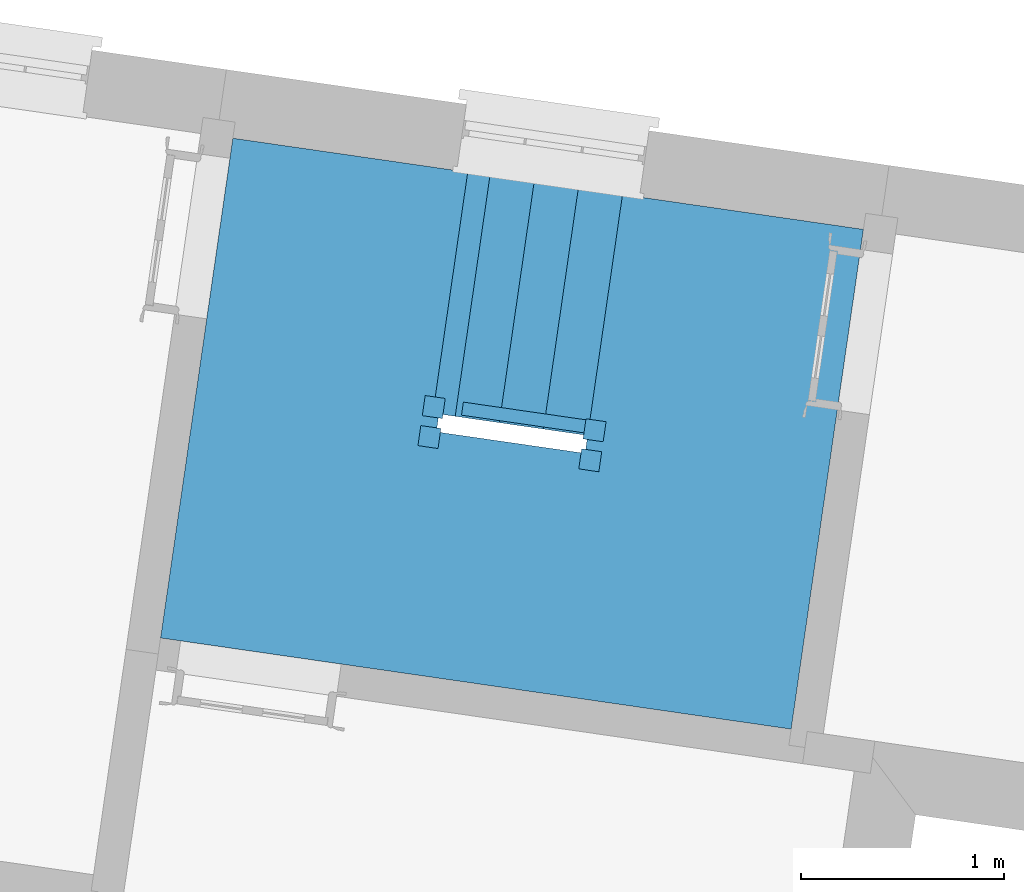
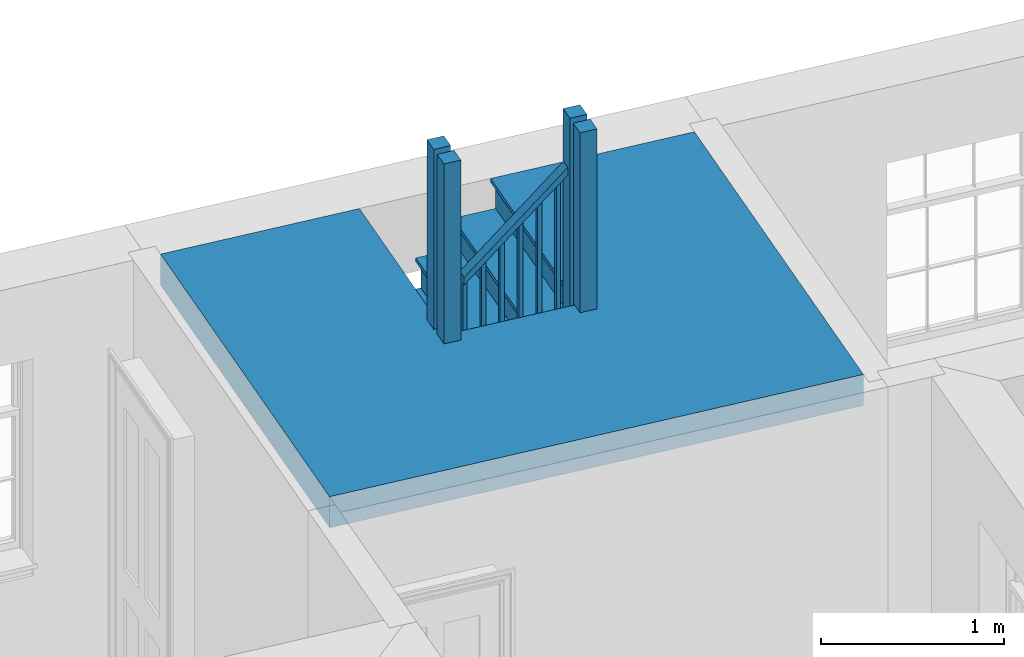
# One storey, part 4 of 4: 1 stair.
"""IFC4 building model written with IfcOpenShell, lengths in metres."""

import ifcopenshell
import ifcopenshell.guid

model = None  # the IFC model being written
_history = None  # IfcOwnerHistory: only IFC2X3 demands one
_inside = {}  # id of a spatial element -> (the spatial element, [elements in it])
_under = {}  # id of a project, library or spatial element -> (it, [spatial elements below it])
_declared = {}  # id of a project -> (the project, [libraries it declares])
_typed = {}  # id of a type object -> (the type object, [elements of that type])
_made_of = {}  # id of a material, layer set ... -> (it, [elements and type objects made of it])


def new_model(schema):
    """Start an empty IFC model of exactly this schema.

    Asked for "IFC4X3", IfcOpenShell would pick the latest addendum, in which some entities
    have other attributes; the version numbers below select the first issue.
    IFC2X3 requires an IfcOwnerHistory on every rooted entity: one is made here for all.
    """
    global model, _history
    if schema == "IFC4X3":
        model = ifcopenshell.file(schema_version=(4, 3, 0, 0))
    else:
        model = ifcopenshell.file(schema=schema)
    _inside.clear()
    _under.clear()
    _declared.clear()
    _typed.clear()
    _made_of.clear()
    _history = None
    if model.schema == "IFC2X3":
        org = make("IfcOrganization", Name="unknown")
        user = make(
            "IfcPersonAndOrganization",
            ThePerson=make("IfcPerson", FamilyName="unknown"),
            TheOrganization=org,
        )
        app = make(
            "IfcApplication",
            ApplicationDeveloper=org,
            Version="unknown",
            ApplicationFullName="unknown",
            ApplicationIdentifier="unknown",
        )
        _history = make(
            "IfcOwnerHistory",
            OwningUser=user,
            OwningApplication=app,
            ChangeAction="ADDED",
            CreationDate=0,
        )
    return model


def make(cls, **values):
    """One entity of the class cls with the attributes given. An attribute that is None is left unset."""
    return model.create_entity(
        cls, **{name: value for name, value in values.items() if value is not None}
    )


def rooted(cls, **values):
    """An entity with a GlobalId (a new one), such as an element, a storey or a relation."""
    return make(cls, GlobalId=ifcopenshell.guid.new(), OwnerHistory=_history, **values)


def si_unit(unit_type, name, prefix=None):
    """IfcSIUnit, for example si_unit("LENGTHUNIT", "METRE", prefix="MILLI")."""
    return make("IfcSIUnit", UnitType=unit_type, Prefix=prefix, Name=name)


def assignment(units):
    """IfcUnitAssignment: the units of a project."""
    return None if units is None else make("IfcUnitAssignment", Units=units)


def point(xyz):
    """IfcCartesianPoint."""
    return None if xyz is None else make("IfcCartesianPoint", Coordinates=xyz)


def direction(xyz):
    """IfcDirection."""
    return None if xyz is None else make("IfcDirection", DirectionRatios=xyz)


def frame(location, z_axis=None, x_axis=None):
    """IfcAxis2Placement3D, a coordinate frame: its origin and axes. An axis left out is left unset."""
    return make(
        "IfcAxis2Placement3D",
        Location=point(location),
        Axis=direction(z_axis),
        RefDirection=direction(x_axis),
    )


def origin():
    """The frame at (0, 0, 0) with its axes left unset."""
    return frame((0.0, 0.0, 0.0))


def origin_with_axes():
    """The frame at (0, 0, 0) with the z axis (0, 0, 1) and the x axis (1, 0, 0) written out."""
    return frame((0.0, 0.0, 0.0), z_axis=(0.0, 0.0, 1.0), x_axis=(1.0, 0.0, 0.0))


def place(relative_to, where):
    """IfcLocalPlacement: puts the frame where relative to a parent placement (None: the world)."""
    return make(
        "IfcLocalPlacement", PlacementRelTo=relative_to, RelativePlacement=where
    )


def context(
    kind, dimensions, precision=None, world=None, true_north=None, identifier=None
):
    """IfcGeometricRepresentationContext, for example the 3D "Model" context."""
    return make(
        "IfcGeometricRepresentationContext",
        ContextIdentifier=identifier,
        ContextType=kind,
        CoordinateSpaceDimension=dimensions,
        Precision=precision,
        WorldCoordinateSystem=world,
        TrueNorth=true_north,
    )


def subcontext(parent, identifier, kind, view, scale=None):
    """IfcGeometricRepresentationSubContext, for example "Body" below "Model"."""
    return make(
        "IfcGeometricRepresentationSubContext",
        ContextIdentifier=identifier,
        ContextType=kind,
        ParentContext=parent,
        TargetScale=scale,
        TargetView=view,
    )


def project(units=None, contexts=None):
    """IfcProject with its units and contexts."""
    return rooted(
        "IfcProject",
        Name="project",
        RepresentationContexts=contexts,
        UnitsInContext=assignment(units),
    )


def spatial(cls, under=None, at=None, **own):
    """A site, building, storey or space (cls), placed at a placement, below another one or the project."""
    s = rooted(cls, ObjectPlacement=at, **own)
    if under is not None:
        _under.setdefault(under.id(), (under, []))[1].append(s)
    return s


def faces_of(points, faces, orient=None, outer=None):
    """IfcFace entities. A face is a list of loops; a loop is a list of indices into points, from 0.

    orient and outer hold one flag for each loop. By default every Orientation is true, the
    first loop of a face is its IfcFaceOuterBound and the others are IfcFaceBound.
    """
    made = []
    for i, loops in enumerate(faces):
        bounds = []
        for j, loop in enumerate(loops):
            is_outer = j == 0 if outer is None else outer[i][j]
            bounds.append(
                make(
                    "IfcFaceOuterBound" if is_outer else "IfcFaceBound",
                    Bound=make("IfcPolyLoop", Polygon=[points[k] for k in loop]),
                    Orientation=True if orient is None else orient[i][j],
                )
            )
        made.append(make("IfcFace", Bounds=bounds))
    return made


def faceted_brep(points, faces, orient=None, outer=None, voids=None):
    """IfcFacetedBrep: a solid bounded by flat faces; with voids (closed shells), ...WithVoids."""
    shared = [point(p) for p in points]
    hull = make("IfcClosedShell", CfsFaces=faces_of(shared, faces, orient, outer))
    if voids is None:
        return make("IfcFacetedBrep", Outer=hull)
    return make(
        "IfcFacetedBrepWithVoids",
        Outer=hull,
        Voids=[
            make(cls, CfsFaces=faces_of(shared, fs, o, b)) for cls, fs, o, b in voids
        ],
    )


def shape(context_of_items, identifier, shape_type, items):
    """IfcShapeRepresentation: the items that make up one representation, for example the "Body"."""
    return make(
        "IfcShapeRepresentation",
        ContextOfItems=context_of_items,
        RepresentationIdentifier=identifier,
        RepresentationType=shape_type,
        Items=items,
    )


def made_of(thing, what):
    """Note that an element or type object is made of a material, layer set ...; save() writes the relation."""
    if what is not None:
        _made_of.setdefault(what.id(), (what, []))[1].append(thing)
    return thing


def element(
    cls,
    number,
    at=None,
    inside=None,
    cuts=None,
    type_object=None,
    material=None,
    context=None,
    identifier="Body",
    shape_type=None,
    held_by="IfcProductDefinitionShape",
    body=None,
    shapes=None,
    **own,
):
    """One element of the class cls, such as IfcWall. Its Tag is "e" and its number.

    at: its placement. inside: the storey or other place that contains it. cuts: it is an
    opening in that element (IfcRelVoidsElement). A single representation is given by context,
    identifier, shape_type and body (its items); several are given by shapes. held_by: the class
    of the entity that holds the representations. save() writes the other relations.
    """
    e = rooted(cls, Tag="e%d" % number, ObjectPlacement=at, **own)
    if body is not None:
        shapes = [shape(context, identifier, shape_type, body)]
    if shapes is not None:
        e.Representation = make(held_by, Representations=shapes)
    if inside is not None:
        _inside.setdefault(inside.id(), (inside, []))[1].append(e)
    if cuts is not None:
        rooted(
            "IfcRelVoidsElement", RelatingBuildingElement=cuts, RelatedOpeningElement=e
        )
    if type_object is not None:
        _typed.setdefault(type_object.id(), (type_object, []))[1].append(e)
    return made_of(e, material)


def aggregate(whole, parts):
    """IfcRelAggregates: a whole, such as a stair, and the parts it consists of."""
    return rooted("IfcRelAggregates", RelatingObject=whole, RelatedObjects=parts)


def save(model, path):
    """Write the relations noted so far, then the file.

    IfcRelAggregates (storeys below a building ...), IfcRelContainedInSpatialStructure (elements
    in a storey), IfcRelDefinesByType, IfcRelAssociatesMaterial and IfcRelDeclares: one each for
    every whole, place, type object, material and project.
    """
    for whole, parts in _under.values():
        aggregate(whole, parts)
    for where, things in _inside.values():
        rooted(
            "IfcRelContainedInSpatialStructure",
            RelatedElements=things,
            RelatingStructure=where,
        )
    for kind, things in _typed.values():
        rooted("IfcRelDefinesByType", RelatedObjects=things, RelatingType=kind)
    for what, things in _made_of.values():
        rooted("IfcRelAssociatesMaterial", RelatedObjects=things, RelatingMaterial=what)
    for by, libraries in _declared.values():
        rooted("IfcRelDeclares", RelatingContext=by, RelatedDefinitions=libraries)
    model.write(path)


model = new_model("IFC4")

# Units and contexts
model_context = context("Model", 3, world=origin_with_axes())
body_context = subcontext(model_context, "Body", "Model", "MODEL_VIEW")
ifc_project = project(units=[si_unit("PLANEANGLEUNIT", "RADIAN"), si_unit("MASSUNIT", "GRAM", prefix="KILO"), si_unit("FORCEUNIT", "NEWTON", prefix="KILO"), si_unit("LENGTHUNIT", "METRE"), si_unit("AREAUNIT", "SQUARE_METRE"), si_unit("VOLUMEUNIT", "CUBIC_METRE")], contexts=[model_context, model_context])

# Sites, building, storey
site_1_placement = place(None, origin_with_axes())
site_1 = spatial("IfcSite", under=ifc_project, at=site_1_placement, Name="Tamar")
site_2_placement = place(site_1_placement, origin_with_axes())
site_2 = spatial("IfcSite", under=site_1, at=site_2_placement, Name="Site plot-30", CompositionType="ELEMENT")
building_placement = place(None, origin_with_axes())
building = spatial("IfcBuilding", under=site_2, at=building_placement, Name="Building plot-30", CompositionType="ELEMENT")
storey_placement = place(None, frame((0.0, 0.0, 28.3), z_axis=(0.0, 0.0, 1.0), x_axis=(1.0, 0.0, 0.0)))
storey = spatial("IfcBuildingStorey", under=building, at=storey_placement, Name="plot-30 1", CompositionType="ELEMENT", Elevation=28.3)

# Stair
stair_placement = place(None, origin())
element("IfcStair", 1, at=stair_placement, inside=storey, Name="Stair", PredefinedType="NOTDEFINED", context=body_context, shape_type="Brep", body=[
    faceted_brep([(287.441554, 262.085451, 31.0), (286.283599, 262.252901, 31.0), (286.262217, 262.105042, 31.0), (287.420172, 261.937593, 31.0), (287.420172, 261.937593, 30.792308), (286.262217, 262.105042, 30.792308), (286.283599, 262.252901, 30.792308), (287.441554, 262.085451, 30.792308)], [[[0, 1, 2, 3]], [[4, 5, 6, 7]], [[7, 6, 1, 0]], [[6, 5, 2, 1]], [[5, 4, 3, 2]], [[4, 7, 0, 3]]]),
    faceted_brep([(287.449864, 261.933299, 30.975), (287.449864, 261.933299, 31.0), (287.420172, 261.937593, 30.975), (287.471245, 262.081158, 31.0), (287.471245, 262.081158, 30.975), (287.441554, 262.085451, 30.975), (287.420172, 261.937593, 31.0), (287.441554, 262.085451, 31.0)], [[[0, 1, 2]], [[3, 4, 5]], [[2, 1, 6]], [[3, 5, 7]], [[6, 1, 3, 7]], [[2, 6, 7, 5]], [[0, 2, 5, 4]], [[1, 0, 4, 3]]]),
    faceted_brep([(287.462502, 261.880951, 32.2), (287.476814, 261.979922, 32.2), (287.377843, 261.994234, 32.2), (287.363531, 261.895263, 32.2), (287.363531, 261.895263, 31.0), (287.377843, 261.994234, 31.0), (287.476814, 261.979922, 31.0), (287.462502, 261.880951, 31.0)], [[[0, 1, 2, 3]], [[4, 5, 6, 7]], [[7, 6, 1, 0]], [[6, 5, 2, 1]], [[5, 4, 3, 2]], [[4, 7, 0, 3]]]),
    faceted_brep([(287.420172, 261.937593, 31.0), (286.262217, 262.105042, 31.0), (286.094768, 260.947087, 31.0), (287.252723, 260.779637, 31.0), (287.252723, 260.779637, 30.792308), (286.094768, 260.947087, 30.792308), (286.262217, 262.105042, 30.792308), (287.420172, 261.937593, 30.792308)], [[[0, 1, 2, 3]], [[4, 5, 6, 7]], [[7, 6, 1, 0]], [[6, 5, 2, 1]], [[5, 4, 3, 2]], [[4, 7, 0, 3]]]),
    faceted_brep([(287.282414, 260.775344, 30.975), (287.282414, 260.775344, 31.0), (287.252723, 260.779637, 30.975), (287.449864, 261.933299, 31.0), (287.449864, 261.933299, 30.975), (287.420172, 261.937593, 30.975), (287.252723, 260.779637, 31.0), (287.420172, 261.937593, 31.0)], [[[0, 1, 2]], [[3, 4, 5]], [[2, 1, 6]], [[3, 5, 7]], [[6, 1, 3, 7]], [[2, 6, 7, 5]], [[0, 2, 5, 4]], [[1, 0, 4, 3]]]),
    faceted_brep([(287.462502, 261.880951, 31.0), (287.476814, 261.979922, 31.0), (287.377843, 261.994234, 31.0), (287.363531, 261.895263, 31.0), (287.363531, 261.895263, 30.5), (287.377843, 261.994234, 30.5), (287.476814, 261.979922, 30.5), (287.462502, 261.880951, 30.5)], [[[0, 1, 2, 3]], [[4, 5, 6, 7]], [[7, 6, 1, 0]], [[6, 5, 2, 1]], [[5, 4, 3, 2]], [[4, 7, 0, 3]]]),
    faceted_brep([(287.420172, 261.937593, 31.0), (287.252723, 260.779637, 31.0), (288.045494, 260.664996, 31.0), (288.212944, 261.822952, 31.0), (288.212944, 261.822952, 30.792308), (288.045494, 260.664996, 30.792308), (287.252723, 260.779637, 30.792308), (287.420172, 261.937593, 30.792308)], [[[0, 1, 2, 3]], [[4, 5, 6, 7]], [[7, 6, 1, 0]], [[6, 5, 2, 1]], [[5, 4, 3, 2]], [[4, 7, 0, 3]]]),
    faceted_brep([(288.212944, 261.822952, 30.975), (288.217237, 261.852643, 30.975), (288.212944, 261.822952, 31.0), (287.424466, 261.967284, 30.975), (287.420172, 261.937593, 30.975), (287.420172, 261.937593, 31.0), (288.217237, 261.852643, 31.0), (287.424466, 261.967284, 31.0)], [[[0, 1, 2]], [[3, 4, 5]], [[1, 6, 2]], [[7, 3, 5]], [[2, 6, 7, 5]], [[0, 2, 5, 4]], [[1, 0, 4, 3]], [[6, 1, 3, 7]]]),
    faceted_brep([(288.269585, 261.865281, 32.2), (288.170614, 261.879593, 32.2), (288.156302, 261.780622, 32.2), (288.255273, 261.76631, 32.2), (288.255273, 261.76631, 31.0), (288.156302, 261.780622, 31.0), (288.170614, 261.879593, 31.0), (288.269585, 261.865281, 31.0)], [[[0, 1, 2, 3]], [[4, 5, 6, 7]], [[7, 6, 1, 0]], [[6, 5, 2, 1]], [[5, 4, 3, 2]], [[4, 7, 0, 3]]]),
    faceted_brep([(288.212944, 261.822952, 31.0), (288.045494, 260.664996, 31.0), (289.20345, 260.497547, 31.0), (289.370899, 261.655502, 31.0), (289.370899, 261.655502, 30.792308), (289.20345, 260.497547, 30.792308), (288.045494, 260.664996, 30.792308), (288.212944, 261.822952, 30.792308)], [[[0, 1, 2, 3]], [[4, 5, 6, 7]], [[7, 6, 1, 0]], [[6, 5, 2, 1]], [[5, 4, 3, 2]], [[4, 7, 0, 3]]]),
    faceted_brep([(289.370899, 261.655502, 30.975), (289.375193, 261.685193, 30.975), (289.370899, 261.655502, 31.0), (288.217237, 261.852643, 30.975), (288.212944, 261.822952, 30.975), (288.212944, 261.822952, 31.0), (289.375193, 261.685193, 31.0), (288.217237, 261.852643, 31.0)], [[[0, 1, 2]], [[3, 4, 5]], [[1, 6, 2]], [[7, 3, 5]], [[2, 6, 7, 5]], [[0, 2, 5, 4]], [[1, 0, 4, 3]], [[6, 1, 3, 7]]]),
    faceted_brep([(288.269585, 261.865281, 31.0), (288.170614, 261.879593, 31.0), (288.156302, 261.780622, 31.0), (288.255273, 261.76631, 31.0), (288.255273, 261.76631, 30.5), (288.156302, 261.780622, 30.5), (288.170614, 261.879593, 30.5), (288.269585, 261.865281, 30.5)], [[[0, 1, 2, 3]], [[4, 5, 6, 7]], [[7, 6, 1, 0]], [[6, 5, 2, 1]], [[5, 4, 3, 2]], [[4, 7, 0, 3]]]),
    faceted_brep([(288.212944, 261.822952, 31.0), (289.370899, 261.655502, 31.0), (289.392281, 261.803361, 31.0), (288.234325, 261.970811, 31.0), (288.234325, 261.970811, 30.792308), (289.392281, 261.803361, 30.792308), (289.370899, 261.655502, 30.792308), (288.212944, 261.822952, 30.792308)], [[[0, 1, 2, 3]], [[4, 5, 6, 7]], [[7, 6, 1, 0]], [[6, 5, 2, 1]], [[5, 4, 3, 2]], [[4, 7, 0, 3]]]),
    faceted_brep([(288.204634, 261.975104, 30.975), (288.204634, 261.975104, 31.0), (288.234325, 261.970811, 30.975), (288.183253, 261.827245, 31.0), (288.183253, 261.827245, 30.975), (288.212944, 261.822952, 30.975), (288.234325, 261.970811, 31.0), (288.212944, 261.822952, 31.0)], [[[0, 1, 2]], [[3, 4, 5]], [[2, 1, 6]], [[3, 5, 7]], [[6, 1, 3, 7]], [[2, 6, 7, 5]], [[0, 2, 5, 4]], [[1, 0, 4, 3]]]),
    faceted_brep([(288.191996, 262.027452, 32.2), (288.177684, 261.928481, 32.2), (288.276655, 261.914169, 32.2), (288.290966, 262.01314, 32.2), (288.290966, 262.01314, 31.0), (288.276655, 261.914169, 31.0), (288.177684, 261.928481, 31.0), (288.191996, 262.027452, 31.0)], [[[0, 1, 2, 3]], [[4, 5, 6, 7]], [[7, 6, 1, 0]], [[6, 5, 2, 1]], [[5, 4, 3, 2]], [[4, 7, 0, 3]]]),
    faceted_brep([(288.234325, 261.970811, 31.0), (289.392281, 261.803361, 31.0), (289.55973, 262.961316, 31.0), (288.401775, 263.128766, 31.0), (288.401775, 263.128766, 30.792308), (289.55973, 262.961316, 30.792308), (289.392281, 261.803361, 30.792308), (288.234325, 261.970811, 30.792308)], [[[0, 1, 2, 3]], [[4, 5, 6, 7]], [[7, 6, 1, 0]], [[6, 5, 2, 1]], [[5, 4, 3, 2]], [[4, 7, 0, 3]]]),
    faceted_brep([(288.372084, 263.133059, 30.975), (288.372084, 263.133059, 31.0), (288.401775, 263.128766, 30.975), (288.204634, 261.975104, 31.0), (288.204634, 261.975104, 30.975), (288.234325, 261.970811, 30.975), (288.401775, 263.128766, 31.0), (288.234325, 261.970811, 31.0)], [[[0, 1, 2]], [[3, 4, 5]], [[2, 1, 6]], [[3, 5, 7]], [[6, 1, 3, 7]], [[2, 6, 7, 5]], [[0, 2, 5, 4]], [[1, 0, 4, 3]]]),
    faceted_brep([(288.191996, 262.027452, 31.0), (288.177684, 261.928481, 31.0), (288.276655, 261.914169, 31.0), (288.290966, 262.01314, 31.0), (288.290966, 262.01314, 30.5), (288.276655, 261.914169, 30.5), (288.177684, 261.928481, 30.5), (288.191996, 262.027452, 30.5)], [[[0, 1, 2, 3]], [[4, 5, 6, 7]], [[7, 6, 1, 0]], [[6, 5, 2, 1]], [[5, 4, 3, 2]], [[4, 7, 0, 3]]]),
    faceted_brep([(288.234325, 261.970811, 30.792308), (288.401775, 263.128766, 30.792308), (288.184039, 263.160252, 30.792308), (288.01659, 262.002297, 30.792308), (288.01659, 262.002297, 30.376923), (288.184039, 263.160252, 30.376923), (288.401775, 263.128766, 30.584615), (288.234325, 261.970811, 30.584615)], [[[0, 1, 2, 3]], [[4, 5, 6, 7]], [[7, 6, 1, 0]], [[1, 6, 5, 2]], [[5, 4, 3, 2]], [[3, 4, 7, 0]]]),
    faceted_brep([(288.184039, 263.160252, 30.767308), (288.154348, 263.164546, 30.767308), (288.184039, 263.160252, 30.792308), (288.431466, 263.124472, 30.767308), (288.401775, 263.128766, 30.767308), (288.401775, 263.128766, 30.792308), (288.154348, 263.164546, 30.792308), (288.431466, 263.124472, 30.792308), (287.982605, 261.976899, 30.792308), (288.01659, 262.002297, 30.792308), (288.01659, 262.002297, 30.767308), (287.982605, 261.976899, 30.767308), (288.259723, 261.936826, 30.792308), (288.234325, 261.970811, 30.792308), (288.234325, 261.970811, 30.767308), (288.259723, 261.936826, 30.767308)], [[[0, 1, 2]], [[3, 4, 5]], [[1, 6, 2]], [[7, 3, 5]], [[2, 6, 8, 9]], [[0, 2, 9, 10]], [[1, 0, 10, 11]], [[6, 1, 11, 8]], [[9, 8, 12, 13]], [[10, 9, 13, 14]], [[11, 10, 14, 15]], [[8, 11, 15, 12]], [[13, 12, 7, 5]], [[14, 13, 5, 4]], [[15, 14, 4, 3]], [[12, 15, 3, 7]]]),
    faceted_brep([(288.01659, 262.002297, 31.692308), (288.041333, 261.998719, 31.692308), (288.044911, 262.023461, 31.692308), (288.020168, 262.027039, 31.692308), (288.020168, 262.027039, 30.792308), (288.044911, 262.023461, 30.792308), (288.041333, 261.998719, 30.792308), (288.01659, 262.002297, 30.792308)], [[[0, 1, 2, 3]], [[4, 5, 6, 7]], [[7, 6, 1, 0]], [[6, 5, 2, 1]], [[5, 4, 3, 2]], [[4, 7, 0, 3]]]),
    faceted_brep([(288.125458, 261.986554, 31.796154), (288.1502, 261.982976, 31.796154), (288.153778, 262.007718, 31.796154), (288.129036, 262.011296, 31.796154), (288.129036, 262.011296, 30.792308), (288.153778, 262.007718, 30.792308), (288.1502, 261.982976, 30.792308), (288.125458, 261.986554, 30.792308)], [[[0, 1, 2, 3]], [[4, 5, 6, 7]], [[7, 6, 1, 0]], [[6, 5, 2, 1]], [[5, 4, 3, 2]], [[4, 7, 0, 3]]]),
    faceted_brep([(288.02303, 262.046833, 31.642308), (288.013728, 261.982503, 31.642308), (288.013728, 261.982503, 31.692308), (288.02303, 262.046833, 31.692308), (288.231463, 261.951016, 31.85), (288.240766, 262.015347, 31.85), (288.240766, 262.015347, 31.9), (288.231463, 261.951016, 31.9)], [[[0, 1, 2, 3]], [[4, 5, 6, 7]], [[0, 5, 4, 1]], [[3, 2, 7, 6]], [[0, 3, 6, 5]], [[2, 1, 4, 7]]]),
    faceted_brep([(288.01659, 262.002297, 30.584615), (288.184039, 263.160252, 30.584615), (287.966304, 263.191738, 30.584615), (287.798855, 262.033783, 30.584615), (287.798855, 262.033783, 30.169231), (287.966304, 263.191738, 30.169231), (288.184039, 263.160252, 30.376923), (288.01659, 262.002297, 30.376923)], [[[0, 1, 2, 3]], [[4, 5, 6, 7]], [[7, 6, 1, 0]], [[1, 6, 5, 2]], [[5, 4, 3, 2]], [[3, 4, 7, 0]]]),
    faceted_brep([(287.936613, 263.196032, 30.559615), (287.936613, 263.196032, 30.584615), (287.966304, 263.191738, 30.559615), (288.213731, 263.155959, 30.584615), (288.213731, 263.155959, 30.559615), (288.184039, 263.160252, 30.559615), (287.966304, 263.191738, 30.584615), (288.184039, 263.160252, 30.584615), (287.76487, 262.008385, 30.584615), (287.798855, 262.033783, 30.584615), (287.798855, 262.033783, 30.559615), (287.76487, 262.008385, 30.559615), (288.041988, 261.968312, 30.584615), (288.01659, 262.002297, 30.584615), (288.01659, 262.002297, 30.559615), (288.041988, 261.968312, 30.559615)], [[[0, 1, 2]], [[3, 4, 5]], [[2, 1, 6]], [[3, 5, 7]], [[6, 1, 8, 9]], [[2, 6, 9, 10]], [[0, 2, 10, 11]], [[1, 0, 11, 8]], [[9, 8, 12, 13]], [[10, 9, 13, 14]], [[11, 10, 14, 15]], [[8, 11, 15, 12]], [[13, 12, 3, 7]], [[14, 13, 7, 5]], [[15, 14, 5, 4]], [[12, 15, 4, 3]]]),
    faceted_brep([(287.798855, 262.033783, 31.484615), (287.823597, 262.030205, 31.484615), (287.827175, 262.054948, 31.484615), (287.802433, 262.058526, 31.484615), (287.802433, 262.058526, 30.584615), (287.827175, 262.054948, 30.584615), (287.823597, 262.030205, 30.584615), (287.798855, 262.033783, 30.584615)], [[[0, 1, 2, 3]], [[4, 5, 6, 7]], [[7, 6, 1, 0]], [[6, 5, 2, 1]], [[5, 4, 3, 2]], [[4, 7, 0, 3]]]),
    faceted_brep([(287.907722, 262.01804, 31.588462), (287.932465, 262.014462, 31.588462), (287.936043, 262.039204, 31.588462), (287.9113, 262.042782, 31.588462), (287.9113, 262.042782, 30.584615), (287.936043, 262.039204, 30.584615), (287.932465, 262.014462, 30.584615), (287.907722, 262.01804, 30.584615)], [[[0, 1, 2, 3]], [[4, 5, 6, 7]], [[7, 6, 1, 0]], [[6, 5, 2, 1]], [[5, 4, 3, 2]], [[4, 7, 0, 3]]]),
    faceted_brep([(287.805295, 262.07832, 31.434615), (287.795992, 262.013989, 31.434615), (287.795992, 262.013989, 31.484615), (287.805295, 262.07832, 31.484615), (288.013728, 261.982503, 31.642308), (288.02303, 262.046833, 31.642308), (288.02303, 262.046833, 31.692308), (288.013728, 261.982503, 31.692308)], [[[0, 1, 2, 3]], [[4, 5, 6, 7]], [[0, 5, 4, 1]], [[3, 2, 7, 6]], [[0, 3, 6, 5]], [[2, 1, 4, 7]]]),
    faceted_brep([(287.798855, 262.033783, 30.376923), (287.966304, 263.191738, 30.376923), (287.748569, 263.223225, 30.376923), (287.58112, 262.065269, 30.376923), (287.58112, 262.065269, 29.961538), (287.748569, 263.223225, 29.961538), (287.966304, 263.191738, 30.169231), (287.798855, 262.033783, 30.169231)], [[[0, 1, 2, 3]], [[4, 5, 6, 7]], [[7, 6, 1, 0]], [[1, 6, 5, 2]], [[5, 4, 3, 2]], [[3, 4, 7, 0]]]),
    faceted_brep([(287.718878, 263.227518, 30.351923), (287.718878, 263.227518, 30.376923), (287.748569, 263.223225, 30.351923), (287.995995, 263.187445, 30.376923), (287.995995, 263.187445, 30.351923), (287.966304, 263.191738, 30.351923), (287.748569, 263.223225, 30.376923), (287.966304, 263.191738, 30.376923), (287.547135, 262.039872, 30.376923), (287.58112, 262.065269, 30.376923), (287.58112, 262.065269, 30.351923), (287.547135, 262.039872, 30.351923), (287.824252, 261.999798, 30.376923), (287.798855, 262.033783, 30.376923), (287.798855, 262.033783, 30.351923), (287.824252, 261.999798, 30.351923)], [[[0, 1, 2]], [[3, 4, 5]], [[2, 1, 6]], [[3, 5, 7]], [[6, 1, 8, 9]], [[2, 6, 9, 10]], [[0, 2, 10, 11]], [[1, 0, 11, 8]], [[9, 8, 12, 13]], [[10, 9, 13, 14]], [[11, 10, 14, 15]], [[8, 11, 15, 12]], [[13, 12, 3, 7]], [[14, 13, 7, 5]], [[15, 14, 5, 4]], [[12, 15, 4, 3]]]),
    faceted_brep([(287.58112, 262.065269, 31.276923), (287.605862, 262.061691, 31.276923), (287.60944, 262.086434, 31.276923), (287.584698, 262.090012, 31.276923), (287.584698, 262.090012, 30.376923), (287.60944, 262.086434, 30.376923), (287.605862, 262.061691, 30.376923), (287.58112, 262.065269, 30.376923)], [[[0, 1, 2, 3]], [[4, 5, 6, 7]], [[7, 6, 1, 0]], [[6, 5, 2, 1]], [[5, 4, 3, 2]], [[4, 7, 0, 3]]]),
    faceted_brep([(287.689987, 262.049526, 31.380769), (287.71473, 262.045948, 31.380769), (287.718308, 262.070691, 31.380769), (287.693565, 262.074269, 31.380769), (287.693565, 262.074269, 30.376923), (287.718308, 262.070691, 30.376923), (287.71473, 262.045948, 30.376923), (287.689987, 262.049526, 30.376923)], [[[0, 1, 2, 3]], [[4, 5, 6, 7]], [[7, 6, 1, 0]], [[6, 5, 2, 1]], [[5, 4, 3, 2]], [[4, 7, 0, 3]]]),
    faceted_brep([(287.58756, 262.109806, 31.226923), (287.578257, 262.045475, 31.226923), (287.578257, 262.045475, 31.276923), (287.58756, 262.109806, 31.276923), (287.795992, 262.013989, 31.434615), (287.805295, 262.07832, 31.434615), (287.805295, 262.07832, 31.484615), (287.795992, 262.013989, 31.484615)], [[[0, 1, 2, 3]], [[4, 5, 6, 7]], [[0, 5, 4, 1]], [[3, 2, 7, 6]], [[0, 3, 6, 5]], [[2, 1, 4, 7]]]),
    faceted_brep([(287.58112, 262.065269, 30.169231), (287.748569, 263.223225, 30.169231), (287.609003, 263.243407, 30.169231), (287.441554, 262.085451, 30.169231), (287.441554, 262.085451, 29.961538), (287.609003, 263.243407, 29.961538), (287.748569, 263.223225, 29.961538), (287.58112, 262.065269, 29.961538)], [[[0, 1, 2, 3]], [[4, 5, 6, 7]], [[7, 6, 1, 0]], [[6, 5, 2, 1]], [[5, 4, 3, 2]], [[4, 7, 0, 3]]]),
    faceted_brep([(287.43726, 262.05576, 30.144231), (287.43726, 262.05576, 30.169231), (287.441554, 262.085451, 30.144231), (287.576826, 262.035578, 30.169231), (287.576826, 262.035578, 30.144231), (287.58112, 262.065269, 30.144231), (287.441554, 262.085451, 30.169231), (287.58112, 262.065269, 30.169231)], [[[0, 1, 2]], [[3, 4, 5]], [[2, 1, 6]], [[3, 5, 7]], [[6, 1, 3, 7]], [[2, 6, 7, 5]], [[0, 2, 5, 4]], [[1, 0, 4, 3]]]),
    faceted_brep([(287.384913, 262.043122, 32.2), (287.483883, 262.02881, 32.2), (287.498195, 262.127781, 32.2), (287.399225, 262.142093, 32.2), (287.399225, 262.142093, 31.0), (287.498195, 262.127781, 31.0), (287.483883, 262.02881, 31.0), (287.384913, 262.043122, 31.0)], [[[0, 1, 2, 3]], [[4, 5, 6, 7]], [[7, 6, 1, 0]], [[6, 5, 2, 1]], [[5, 4, 3, 2]], [[4, 7, 0, 3]]]),
    faceted_brep([(287.441554, 262.085451, 31.0), (287.609003, 263.243407, 31.0), (286.451048, 263.410856, 31.0), (286.283599, 262.252901, 31.0), (286.283599, 262.252901, 30.792308), (286.451048, 263.410856, 30.792308), (287.609003, 263.243407, 30.792308), (287.441554, 262.085451, 30.792308)], [[[0, 1, 2, 3]], [[4, 5, 6, 7]], [[7, 6, 1, 0]], [[6, 5, 2, 1]], [[5, 4, 3, 2]], [[4, 7, 0, 3]]]),
    faceted_brep([(286.279305, 262.22321, 30.975), (286.279305, 262.22321, 31.0), (286.283599, 262.252901, 30.975), (287.43726, 262.05576, 31.0), (287.43726, 262.05576, 30.975), (287.441554, 262.085451, 30.975), (286.283599, 262.252901, 31.0), (287.441554, 262.085451, 31.0)], [[[0, 1, 2]], [[3, 4, 5]], [[2, 1, 6]], [[3, 5, 7]], [[6, 1, 3, 7]], [[2, 6, 7, 5]], [[0, 2, 5, 4]], [[1, 0, 4, 3]]]),
    faceted_brep([(287.384913, 262.043122, 31.0), (287.483883, 262.02881, 31.0), (287.498195, 262.127781, 31.0), (287.399225, 262.142093, 31.0), (287.399225, 262.142093, 30.5), (287.498195, 262.127781, 30.5), (287.483883, 262.02881, 30.5), (287.384913, 262.043122, 30.5)], [[[0, 1, 2, 3]], [[4, 5, 6, 7]], [[7, 6, 1, 0]], [[6, 5, 2, 1]], [[5, 4, 3, 2]], [[4, 7, 0, 3]]]),
])

save(model, "model.ifc")
